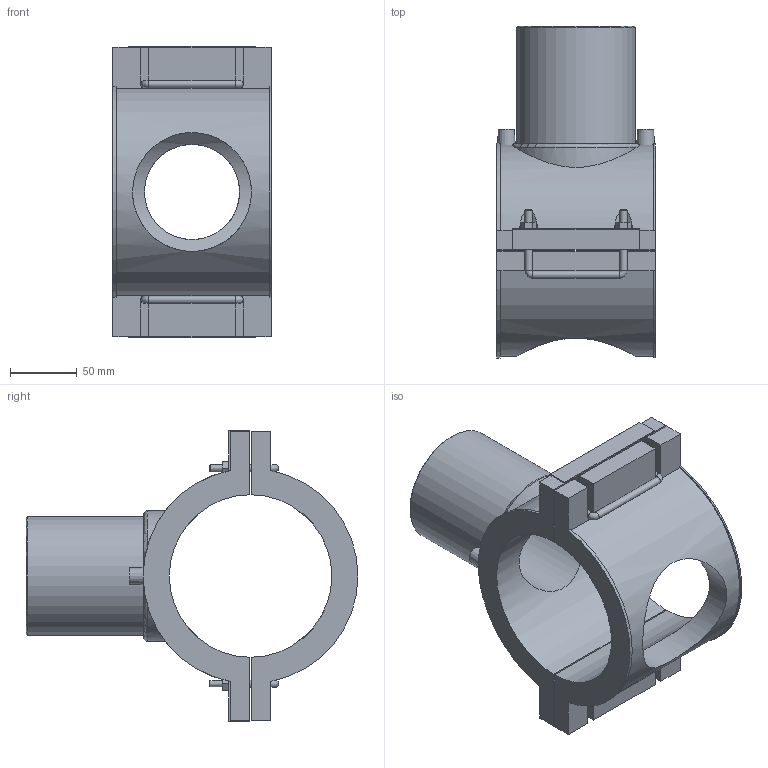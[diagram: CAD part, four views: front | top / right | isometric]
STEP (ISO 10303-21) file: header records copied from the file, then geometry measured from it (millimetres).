
FILE_DESCRIPTION(/* description */ ('PLASSON BRANCH SADDLE 4''''DIPS x 3''''IPS'),/* implementation_level */ '2;1');
FILE_NAME(/* name */ 'C:\Dropbox\KIMPROJECTS-Inventor 2019\99-16-3568-Processing Inch\ASTM ElectroFusion 2021\5958D (1)\5958DB03040030.ipt.stp',/* time_stamp */ '2021-08-30T09:54:08+03:00',/* author */ ('KIM'),/* organization */ (''),/* preprocessor_version */ 'ST-DEVELOPER v17.2',/* originating_system */ 'Autodesk Inventor 2019',/* authorisation */ '');
FILE_SCHEMA (('AUTOMOTIVE_DESIGN { 1 0 10303 214 3 1 1 }'));
Length unit declared in the file: inch
Products named in the file (1): 5958DB03040030
Bounding box: 118.11 x 247.74 x 217.9 mm (x, y, z)
Volume: 1169489 mm3; surface area: 220703 mm2
Topology: 4 solids, 4 shells, 175 faces, 453 edges, 298 vertices
Faces by surface type: plane 118, cylinder 46, torus 6, cone 5
Full cylindrical faces by diameter (mm): 4 x2, 4.2 x2, 5.4 x10, 10 x2, 70.96 x1, 88.7 x2
Entity records: 5819 total; most frequent: CARTESIAN_POINT 1451, ORIENTED_EDGE 906, DIRECTION 877, EDGE_CURVE 453, LINE 301, VECTOR 301, VERTEX_POINT 298, AXIS2_PLACEMENT_3D 288
